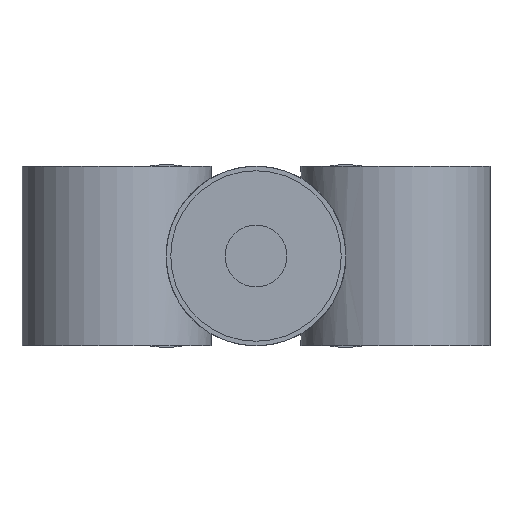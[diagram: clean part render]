
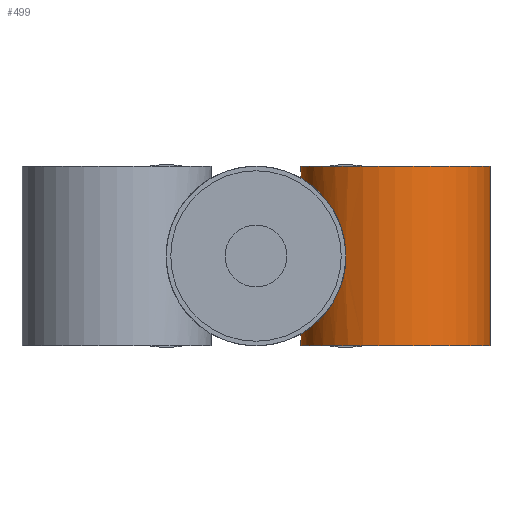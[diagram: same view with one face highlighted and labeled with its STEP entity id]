
A CAD part, front view. The second image highlights one B-rep face of the part: STEP entity #499.
In plain terms, the highlighted cylindrical face has radius 3.05 mm (diameter 6.1 mm), a full revolution.
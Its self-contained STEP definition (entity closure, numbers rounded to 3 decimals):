
#43=LINE('',#844,#49);
#44=LINE('',#846,#50);
#49=VECTOR('',#630,1000.);
#50=VECTOR('',#633,1000.);
#53=B_SPLINE_CURVE_WITH_KNOTS('',3,(#770,#771,#772,#773,#774,#775,#776,
#777,#778,#779,#780,#781,#782,#783,#784,#785,#786,#787,#788),
 .UNSPECIFIED.,.T.,.F.,(1,1,1,1,1,1,1,1,1,1,1,1,1,1,1,1,1,1,1,1,1,1,1),
(-0.003,-0.002,-0.001,0.,0.001,
0.002,0.003,0.004,0.006,
0.007,0.008,0.009,0.01,
0.011,0.012,0.013,0.015,
0.016,0.017,0.018,0.019,
0.02,0.021),.UNSPECIFIED.);
#55=B_SPLINE_CURVE_WITH_KNOTS('',3,(#819,#820,#821,#822),.UNSPECIFIED.,
 .F.,.F.,(4,4),(0.001,0.002),.UNSPECIFIED.);
#56=B_SPLINE_CURVE_WITH_KNOTS('',3,(#837,#838,#839,#840),.UNSPECIFIED.,
 .F.,.F.,(4,4),(0.006,0.008),.UNSPECIFIED.);
#153=ORIENTED_EDGE('',*,*,#219,.F.);
#154=ORIENTED_EDGE('',*,*,#220,.T.);
#155=ORIENTED_EDGE('',*,*,#176,.T.);
#156=ORIENTED_EDGE('',*,*,#186,.T.);
#157=ORIENTED_EDGE('',*,*,#184,.T.);
#158=ORIENTED_EDGE('',*,*,#187,.T.);
#159=ORIENTED_EDGE('',*,*,#170,.T.);
#170=EDGE_CURVE('',#225,#225,#53,.T.);
#176=EDGE_CURVE('',#231,#232,#55,.T.);
#184=EDGE_CURVE('',#238,#237,#56,.T.);
#186=EDGE_CURVE('',#232,#238,#43,.F.);
#187=EDGE_CURVE('',#237,#231,#44,.T.);
#219=EDGE_CURVE('',#264,#264,#307,.T.);
#220=EDGE_CURVE('',#265,#265,#308,.T.);
#225=VERTEX_POINT('',#789);
#231=VERTEX_POINT('',#823);
#232=VERTEX_POINT('',#824);
#237=VERTEX_POINT('',#836);
#238=VERTEX_POINT('',#841);
#264=VERTEX_POINT('',#938);
#265=VERTEX_POINT('',#940);
#307=CIRCLE('',#588,3.05);
#308=CIRCLE('',#589,3.05);
#369=EDGE_LOOP('',(#153));
#370=EDGE_LOOP('',(#154));
#371=EDGE_LOOP('',(#155,#156,#157,#158));
#372=EDGE_LOOP('',(#159));
#439=FACE_BOUND('',#369,.T.);
#440=FACE_BOUND('',#370,.T.);
#441=FACE_BOUND('',#371,.T.);
#442=FACE_BOUND('',#372,.T.);
#465=CYLINDRICAL_SURFACE('',#587,3.05);
#499=ADVANCED_FACE('',(#439,#440,#441,#442),#465,.T.);
#587=AXIS2_PLACEMENT_3D('',#936,#744,#745);
#588=AXIS2_PLACEMENT_3D('',#937,#746,#747);
#589=AXIS2_PLACEMENT_3D('',#939,#748,#749);
#630=DIRECTION('',(0.,0.,-1.));
#633=DIRECTION('',(0.,0.,-1.));
#744=DIRECTION('',(0.,0.,-1.));
#745=DIRECTION('',(-1.,0.,0.));
#746=DIRECTION('',(0.,0.,1.));
#747=DIRECTION('',(1.,0.,0.));
#748=DIRECTION('',(0.,0.,1.));
#749=DIRECTION('',(1.,0.,0.));
#770=CARTESIAN_POINT('',(2.749,12.214,-1.13));
#771=CARTESIAN_POINT('',(2.975,12.338,0.001));
#772=CARTESIAN_POINT('',(2.75,12.214,1.124));
#773=CARTESIAN_POINT('',(2.165,11.737,2.001));
#774=CARTESIAN_POINT('',(1.591,10.824,2.439));
#775=CARTESIAN_POINT('',(1.38,9.703,2.548));
#776=CARTESIAN_POINT('',(1.59,8.579,2.439));
#777=CARTESIAN_POINT('',(2.159,7.669,2.006));
#778=CARTESIAN_POINT('',(2.748,7.187,1.131));
#779=CARTESIAN_POINT('',(2.975,7.062,0.002));
#780=CARTESIAN_POINT('',(2.753,7.184,-1.119));
#781=CARTESIAN_POINT('',(2.166,7.662,-2.));
#782=CARTESIAN_POINT('',(1.592,8.572,-2.438));
#783=CARTESIAN_POINT('',(1.379,9.696,-2.548));
#784=CARTESIAN_POINT('',(1.59,10.822,-2.439));
#785=CARTESIAN_POINT('',(2.158,11.729,-2.007));
#786=CARTESIAN_POINT('',(2.749,12.214,-1.13));
#787=CARTESIAN_POINT('',(2.975,12.338,0.001));
#788=CARTESIAN_POINT('',(2.75,12.214,1.124));
#789=CARTESIAN_POINT('',(2.9,12.297,0.));
#819=CARTESIAN_POINT('',(3.95,12.7,-2.757));
#820=CARTESIAN_POINT('',(4.36,12.775,-2.601));
#821=CARTESIAN_POINT('',(4.747,12.755,-2.342));
#822=CARTESIAN_POINT('',(5.05,12.7,-2.02));
#823=CARTESIAN_POINT('',(3.95,12.7,-2.757));
#824=CARTESIAN_POINT('',(5.05,12.7,-2.02));
#836=CARTESIAN_POINT('',(3.95,12.7,2.757));
#837=CARTESIAN_POINT('',(5.05,12.7,2.02));
#838=CARTESIAN_POINT('',(4.746,12.756,2.344));
#839=CARTESIAN_POINT('',(4.362,12.775,2.6));
#840=CARTESIAN_POINT('',(3.95,12.7,2.757));
#841=CARTESIAN_POINT('',(5.05,12.7,2.02));
#844=CARTESIAN_POINT('',(5.05,12.7,2.9));
#846=CARTESIAN_POINT('',(3.95,12.7,2.9));
#936=CARTESIAN_POINT('',(4.5,9.7,2.9));
#937=CARTESIAN_POINT('',(4.5,9.7,2.9));
#938=CARTESIAN_POINT('',(7.55,9.7,2.9));
#939=CARTESIAN_POINT('',(4.5,9.7,-2.9));
#940=CARTESIAN_POINT('',(7.55,9.7,-2.9));
